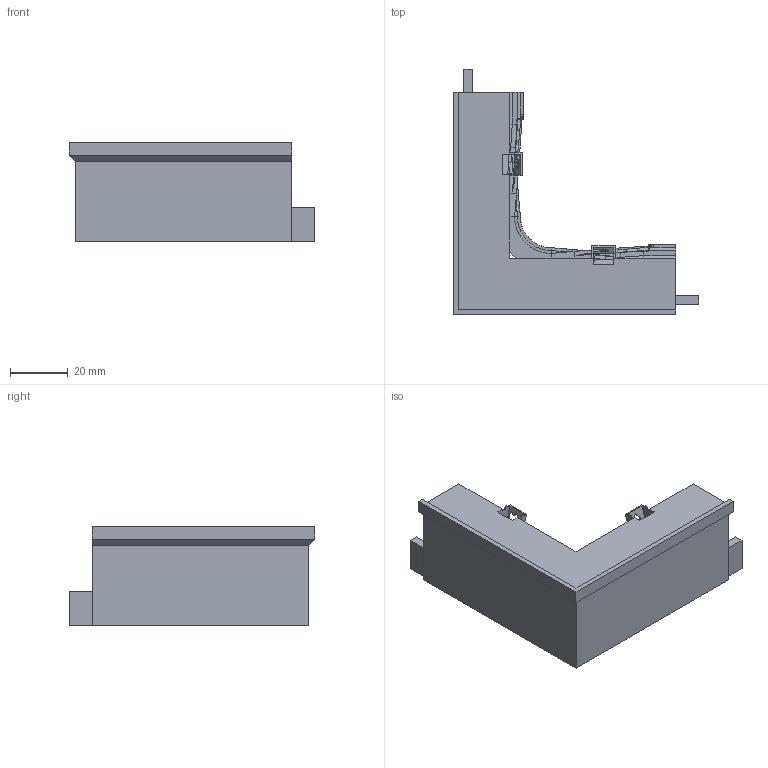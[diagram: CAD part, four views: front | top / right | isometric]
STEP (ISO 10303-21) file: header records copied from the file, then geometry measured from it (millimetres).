
FILE_DESCRIPTION(('Open CASCADE Model'),'2;1');
FILE_NAME('Open CASCADE Shape Model','2026-10-21T19:15:56',('Author'),( 'Open CASCADE'),'Open CASCADE STEP processor 8.0','build123d', 'Unknown');
FILE_SCHEMA(('AUTOMOTIVE_DESIGN { 1 0 10303 214 1 1 1 1 }'));
Products named in the file (1): SOLID
Bounding box: 85.1 x 85.1 x 34.5 mm (x, y, z)
Volume: 76078.9 mm3; surface area: 18114.4 mm2
Topology: 1 solids, 1 shells, 856 faces, 2320 edges, 1461 vertices
Faces by surface type: bspline 433, plane 398, extrusion 18, cylinder 7
Entity records: 59826 total; most frequent: CARTESIAN_POINT 20060, DIRECTION 4875, ORIENTED_EDGE 4640, PCURVE 4640, DEFINITIONAL_REPRESENTATION 4640, VECTOR 4012, LINE 3994, B_SPLINE_CURVE_WITH_KNOTS 2946
